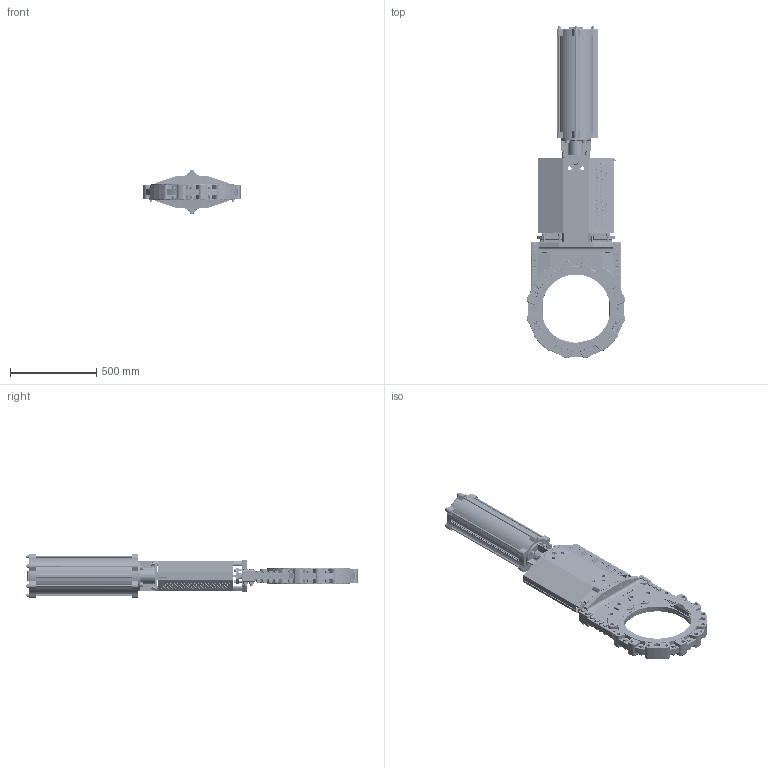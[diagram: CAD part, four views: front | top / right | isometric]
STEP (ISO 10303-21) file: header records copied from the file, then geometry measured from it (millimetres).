
FILE_DESCRIPTION(/* description */ (''),/* implementation_level */ '2;1');
FILE_NAME(/* name */ 'F:\Emir\3D-block special\WB\WB14E-DN400-FRSC200-450\WB14E-DN400-FRSC200-450.stp',/* time_stamp */ '2018-03-19T08:17:01+01:00',/* author */ ('emimus'),/* organization */ (''),/* preprocessor_version */ 'ST-DEVELOPER v17',/* originating_system */ 'Autodesk Inventor 2018',/* authorisation */ '');
FILE_SCHEMA (('CONFIG_CONTROL_DESIGN'));
Products named in the file (1): WB14E-DN400-FRSC200-450_Shrinkwrap_1
Bounding box: 569.6 x 1927.3 x 256 mm (x, y, z)
Volume: 26516804.6 mm3; surface area: 4959175.9 mm2
Topology: 1 solids, 1 shells, 5259 faces, 13516 edges, 8691 vertices
Faces by surface type: plane 2354, cylinder 1330, bspline 725, cone 384, torus 322, sphere 144
Full cylindrical faces by diameter (mm): 3 x5, 3.7 x8, 4 x4, 4.3 x2, 4.5 x4, 4.917 x19, 7 x13, 7.5 x4, 8.376 x4, 9.5 x2, 10 x9, 10.106 x10, 12 x32, 13 x22, 13.835 x4, 16 x31, 16.1 x4, 17 x4, 18 x3, 18.631 x2, 21.971 x32, 22 x8, 22.49 x23, 24 x21, 25 x4, 28 x4, 30 x50, 33 x43, 33.835 x1, 36 x6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
Entity records: 175107 total; most frequent: CARTESIAN_POINT 49804, ORIENTED_EDGE 27000, DIRECTION 25021, EDGE_CURVE 13500, AXIS2_PLACEMENT_3D 9333, VERTEX_POINT 8689, LINE 6355, VECTOR 6355
